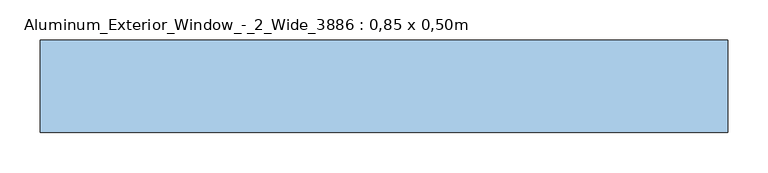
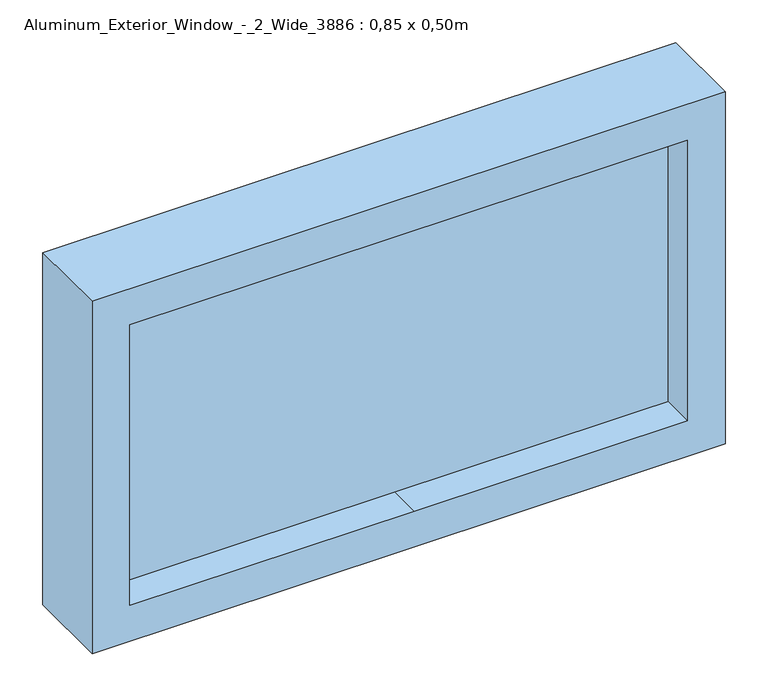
"""IFC4 building model written with IfcOpenShell, lengths in millimetres: window geometry, Aluminum_Exterior_Window_-_2_Wide_3886 : 0,85 x 0,50m."""

from ifc_helpers import new_model, si_unit, frame, origin, place, context, project, spatial, polyline, outline, extrude, source, transform, mapped, element, save


def aluminum_exterior_window_2_wide_3886_0_85_x_0_50m_92bb0107(model_context):
    return source(origin(), model_context, "Body", "SweptSolid", [
        extrude(outline(polyline([(1560.0, -1371.6), (1060.0, -1371.6), (1060.0, -521.6), (1560.0, -521.6), (1560.0, -1371.6)]), holes=[polyline([(1509.2, -972.0), (1509.2, -572.4), (1110.8, -572.4), (1110.8, -938.8808837), (1110.8, -1320.8), (1509.2, -1320.8), (1509.2, -972.0)])]), frame((0.0, -38.1424754, 0.0), z_axis=(0.0, 1.0, 0.0), x_axis=(0.0, 0.0, 1.0)), (0.0, 0.0, 1.0), 114.3),
        extrude(outline(polyline([(1509.2, -972.0), (1509.2, -1320.8), (1110.8, -1320.8), (1110.8, -945.891469), (1110.8, -572.4), (1509.2, -572.4), (1509.2, -972.0)])), frame((0.0, 6.3075246, 0.0), z_axis=(0.0, 1.0, 0.0), x_axis=(0.0, 0.0, 1.0)), (0.0, 0.0, 1.0), 25.4),
    ])


if __name__ == "__main__":
    model = new_model("IFC4")
    model_context = context("Model", 3, world=origin())
    ifc_project = project(units=[si_unit("LENGTHUNIT", "METRE", prefix="MILLI")], contexts=[model_context])
    site = spatial("IfcSite", under=ifc_project)
    building = spatial("IfcBuilding", under=site)
    placement = place(None, origin())
    aluminum_exterior_window_2_wide_3886_0_85_x_0_50m_shape = aluminum_exterior_window_2_wide_3886_0_85_x_0_50m_92bb0107(model_context)
    element("IfcWindow", 1, ObjectType="Aluminum_Exterior_Window_-_2_Wide_3886 : 0,85 x 0,50m", at=placement, inside=building, context=model_context, shape_type="MappedRepresentation", body=[
        mapped(aluminum_exterior_window_2_wide_3886_0_85_x_0_50m_shape, transform((0.0, 0.0, 0.0), x_axis=(1.0, 0.0, 0.0), y_axis=(0.0, 1.0, 0.0), z_axis=(0.0, 0.0, 1.0))),
    ])
    save(model, "model.ifc")
